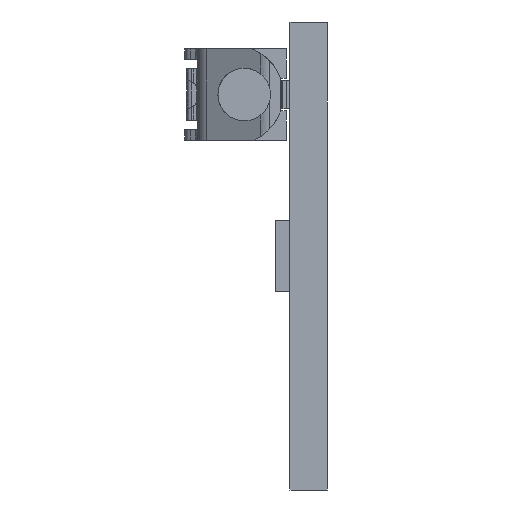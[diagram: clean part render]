
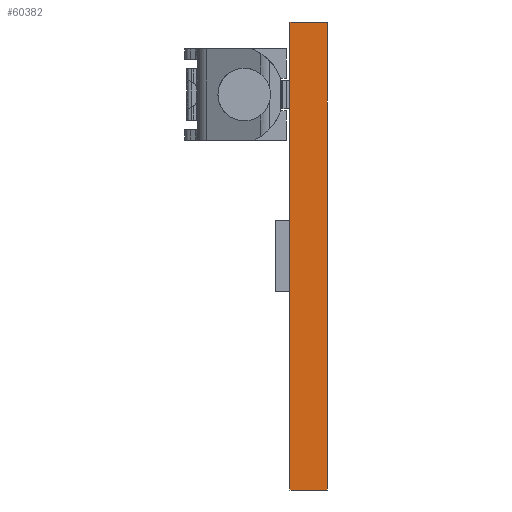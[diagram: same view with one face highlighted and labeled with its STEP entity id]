
A CAD part, left-side view. The second image highlights one B-rep face of the part: STEP entity #60382.
In plain terms, the highlighted planar face has unit normal (-1, 0, 0).
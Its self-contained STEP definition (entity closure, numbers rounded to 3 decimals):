
#352 = VECTOR ( 'NONE', #53591, 1000. ) ;
#8235 = FACE_OUTER_BOUND ( 'NONE', #78610, .T. ) ;
#15563 = EDGE_CURVE ( 'NONE', #32044, #81908, #58669, .T. ) ;
#30035 = EDGE_CURVE ( 'NONE', #138137, #133641, #137827, .T. ) ;
#32044 = VERTEX_POINT ( 'NONE', #69555 ) ;
#32577 = ORIENTED_EDGE ( 'NONE', *, *, #15563, .T. ) ;
#43777 = VECTOR ( 'NONE', #66104, 1000. ) ;
#46536 = CARTESIAN_POINT ( 'NONE',  ( -139.5, 0., 10. ) ) ;
#47653 = CARTESIAN_POINT ( 'NONE',  ( -139.5, -1.6, 0. ) ) ;
#52052 = ORIENTED_EDGE ( 'NONE', *, *, #30035, .F. ) ;
#53591 = DIRECTION ( 'NONE',  ( 0., 0., -1. ) ) ;
#58669 = LINE ( 'NONE', #64421, #148956 ) ;
#59005 = PLANE ( 'NONE',  #151959 ) ;
#59525 = DIRECTION ( 'NONE',  ( 0., 0., -1. ) ) ;
#60382 = ADVANCED_FACE ( 'NONE', ( #8235 ), #59005, .F. ) ;
#62943 = EDGE_CURVE ( 'NONE', #81908, #133641, #134884, .T. ) ;
#64421 = CARTESIAN_POINT ( 'NONE',  ( -139.5, -1.6, 10. ) ) ;
#66104 = DIRECTION ( 'NONE',  ( 0., 1., 0. ) ) ;
#69555 = CARTESIAN_POINT ( 'NONE',  ( -139.5, -1.6, 10. ) ) ;
#78610 = EDGE_LOOP ( 'NONE', ( #122794, #52052, #113910, #32577 ) ) ;
#81908 = VERTEX_POINT ( 'NONE', #46536 ) ;
#88824 = DIRECTION ( 'NONE',  ( 0., 0., -1. ) ) ;
#91910 = CARTESIAN_POINT ( 'NONE',  ( -139.5, 0., -10. ) ) ;
#91989 = CARTESIAN_POINT ( 'NONE',  ( -139.5, -1.6, -10. ) ) ;
#92030 = EDGE_CURVE ( 'NONE', #32044, #138137, #94521, .T. ) ;
#94521 = LINE ( 'NONE', #100541, #352 ) ;
#99477 = DIRECTION ( 'NONE',  ( 0., 1., 0. ) ) ;
#100541 = CARTESIAN_POINT ( 'NONE',  ( -139.5, -1.6, 0. ) ) ;
#100714 = CARTESIAN_POINT ( 'NONE',  ( -139.5, 0., 0. ) ) ;
#103638 = VECTOR ( 'NONE', #88824, 1000. ) ;
#113910 = ORIENTED_EDGE ( 'NONE', *, *, #92030, .F. ) ;
#122794 = ORIENTED_EDGE ( 'NONE', *, *, #62943, .T. ) ;
#124254 = CARTESIAN_POINT ( 'NONE',  ( -139.5, -1.6, -10. ) ) ;
#130094 = DIRECTION ( 'NONE',  ( 1., 0., 0. ) ) ;
#133641 = VERTEX_POINT ( 'NONE', #91910 ) ;
#134884 = LINE ( 'NONE', #100714, #103638 ) ;
#137827 = LINE ( 'NONE', #124254, #43777 ) ;
#138137 = VERTEX_POINT ( 'NONE', #91989 ) ;
#148956 = VECTOR ( 'NONE', #99477, 1000. ) ;
#151959 = AXIS2_PLACEMENT_3D ( 'NONE', #47653, #130094, #59525 ) ;
